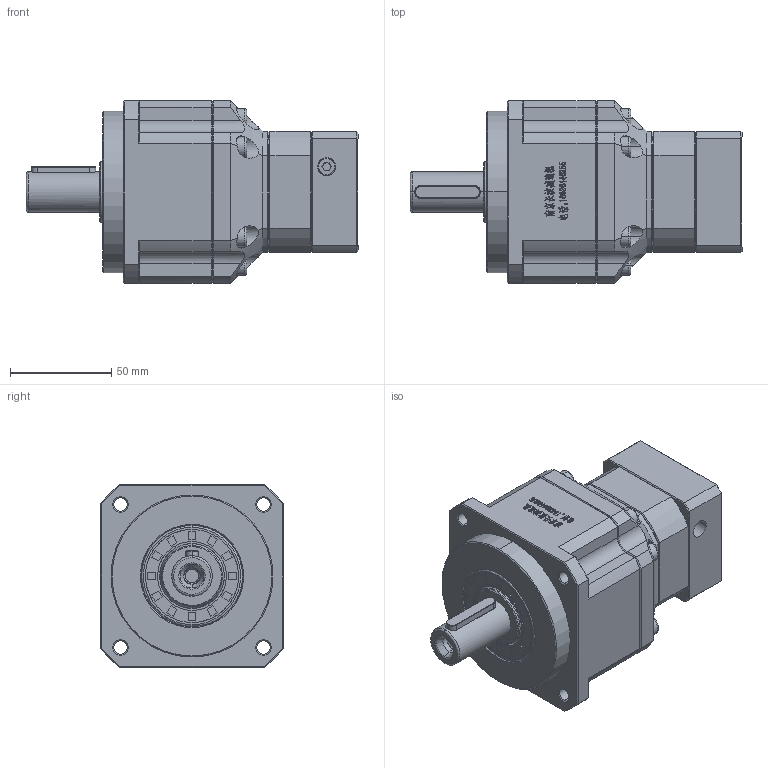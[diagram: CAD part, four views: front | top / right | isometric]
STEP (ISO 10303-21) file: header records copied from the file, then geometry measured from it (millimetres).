
FILE_DESCRIPTION (( 'STEP AP214' ), '1' );
FILE_NAME ('ZPB090-D20-L2-P1-6.35-38.1-47.14X47.14-M4.step', '2024-06-07T18:16:40', ( 'Windows 蚚誧' ), ( 'Organization' ), 'SwSTEP 2.0', 'SolidWorks 2016', '' );
FILE_SCHEMA (( 'AUTOMOTIVE_DESIGN' ));
Length unit declared in the file: millimetre
Products named in the file (1): ZPB090-D20-L2-P1-6.35-38.1-47.14X47.14-M4
Bounding box: 164 x 90 x 90 mm (x, y, z)
Surface area: 68347.3 mm2 (no closed solid volume)
Topology: 0 solids, 32 shells, 2110 faces, 5615 edges, 3572 vertices
Faces by surface type: plane 1082, bspline 381, cylinder 317, cone 306, torus 24
Entity records: 103776 total; most frequent: CARTESIAN_POINT 49765, ORIENTED_EDGE 11192, DIRECTION 8541, EDGE_CURVE 5615, VERTEX_POINT 3572, LINE 3471, VECTOR 3471, AXIS2_PLACEMENT_3D 2535
